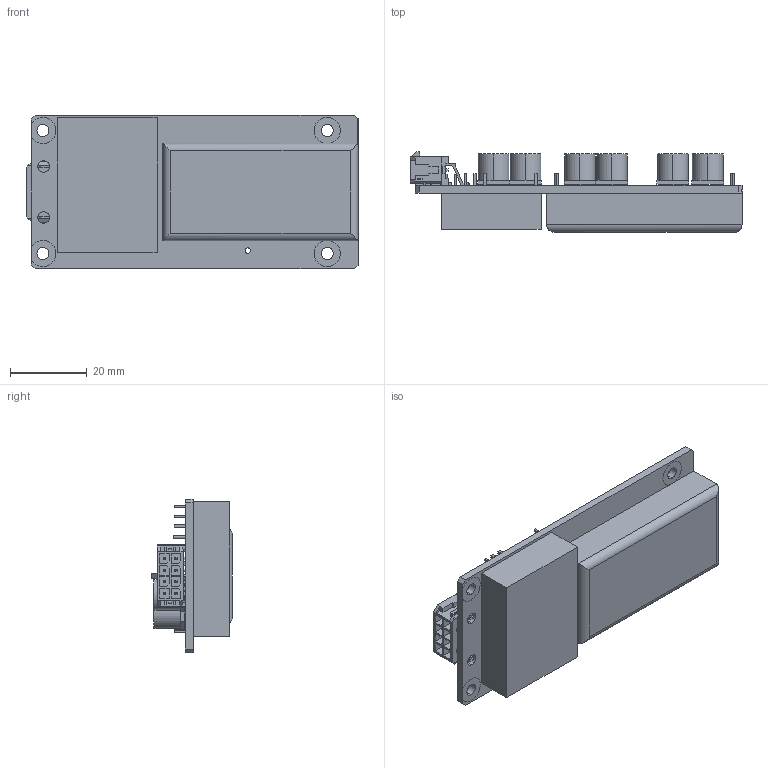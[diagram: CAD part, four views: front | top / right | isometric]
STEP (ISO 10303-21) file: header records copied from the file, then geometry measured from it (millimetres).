
FILE_DESCRIPTION (( 'STEP AP203' ), '1' );
FILE_NAME ('GIL-74103H.STEP', '2016-11-02T17:04:11', ( 'gregory' ), ( '' ), 'SwSTEP 2.0', 'SolidWorks 2011', '' );
FILE_SCHEMA (( 'CONFIG_CONTROL_DESIGN' ));
Length unit declared in the file: millimetre
Products named in the file (1): GIL-74103H
Bounding box: 86.4 x 21.01 x 40 mm (x, y, z)
Volume: 31396.7 mm3; surface area: 16474.9 mm2
Topology: 9 solids, 9 shells, 777 faces, 1965 edges, 1268 vertices
Faces by surface type: plane 644, cylinder 133
Entity records: 23066 total; most frequent: CARTESIAN_POINT 4023, ORIENTED_EDGE 3930, DIRECTION 3775, EDGE_CURVE 1965, LINE 1703, VECTOR 1703, VERTEX_POINT 1268, AXIS2_PLACEMENT_3D 1036
